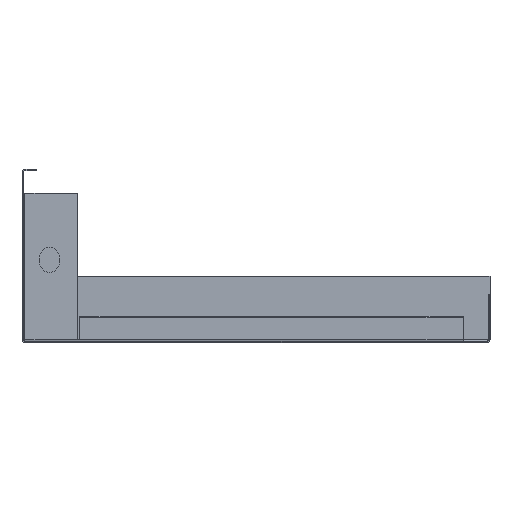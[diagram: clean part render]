
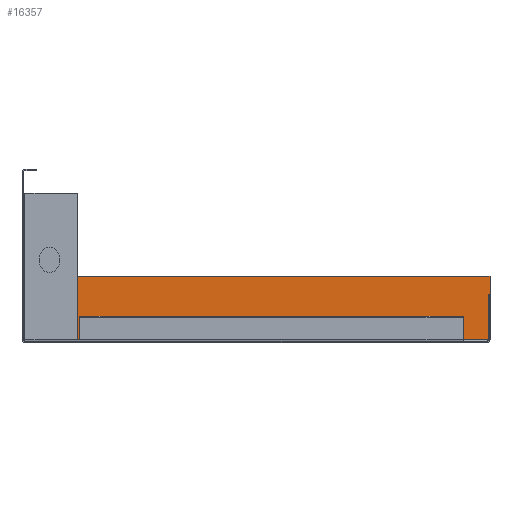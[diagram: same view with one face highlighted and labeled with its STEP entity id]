
A CAD part, left-side view. The second image highlights one B-rep face of the part: STEP entity #16357.
In plain terms, the highlighted planar face has unit normal (-1, 0, 0).
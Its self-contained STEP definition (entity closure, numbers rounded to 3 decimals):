
#1308=PLANE('',#18341);
#2012=FACE_OUTER_BOUND('',#3940,.T.);
#3940=EDGE_LOOP('',(#14293,#14294,#14295,#14296,#14297));
#4630=LINE('',#26907,#5427);
#4719=LINE('',#27131,#5516);
#4723=LINE('',#27139,#5520);
#4740=LINE('',#27183,#5537);
#4741=LINE('',#27184,#5538);
#5427=VECTOR('',#22767,10.);
#5516=VECTOR('',#22994,10.);
#5520=VECTOR('',#23002,10.);
#5537=VECTOR('',#23063,0.432);
#5538=VECTOR('',#23064,10.);
#8073=VERTEX_POINT('',#26903);
#8075=VERTEX_POINT('',#26906);
#8139=VERTEX_POINT('',#27124);
#8141=VERTEX_POINT('',#27130);
#8143=VERTEX_POINT('',#27138);
#10060=EDGE_CURVE('',#8075,#8073,#4630,.T.);
#10173=EDGE_CURVE('',#8141,#8139,#4719,.T.);
#10177=EDGE_CURVE('',#8143,#8141,#4723,.T.);
#10201=EDGE_CURVE('',#8143,#8073,#4740,.T.);
#10202=EDGE_CURVE('',#8139,#8075,#4741,.T.);
#14293=ORIENTED_EDGE('',*,*,#10201,.F.);
#14294=ORIENTED_EDGE('',*,*,#10177,.T.);
#14295=ORIENTED_EDGE('',*,*,#10173,.T.);
#14296=ORIENTED_EDGE('',*,*,#10202,.T.);
#14297=ORIENTED_EDGE('',*,*,#10060,.T.);
#16357=ADVANCED_FACE('',(#2012),#1308,.T.);
#18341=AXIS2_PLACEMENT_3D('',#27182,#23061,#23062);
#22767=DIRECTION('',(0.,-1.,0.));
#22994=DIRECTION('',(0.,0.,-1.));
#23002=DIRECTION('',(0.,1.,0.));
#23061=DIRECTION('center_axis',(-1.,0.,0.));
#23062=DIRECTION('ref_axis',(0.,0.,1.));
#23063=DIRECTION('',(0.,0.,-1.));
#23064=DIRECTION('',(0.,-1.,0.));
#26903=CARTESIAN_POINT('',(183.2,0.,0.6));
#26906=CARTESIAN_POINT('',(183.2,0.6,0.6));
#26907=CARTESIAN_POINT('',(183.2,48.2,0.6));
#27124=CARTESIAN_POINT('',(183.2,87.1,0.6));
#27130=CARTESIAN_POINT('',(183.2,87.1,13.8));
#27131=CARTESIAN_POINT('',(183.2,87.1,3.73));
#27138=CARTESIAN_POINT('',(183.2,0.,13.8));
#27139=CARTESIAN_POINT('',(183.2,0.,13.8));
#27182=CARTESIAN_POINT('Origin',(183.2,48.2,6.861));
#27183=CARTESIAN_POINT('',(183.2,0.,-0.757));
#27184=CARTESIAN_POINT('',(183.2,48.2,0.6));
